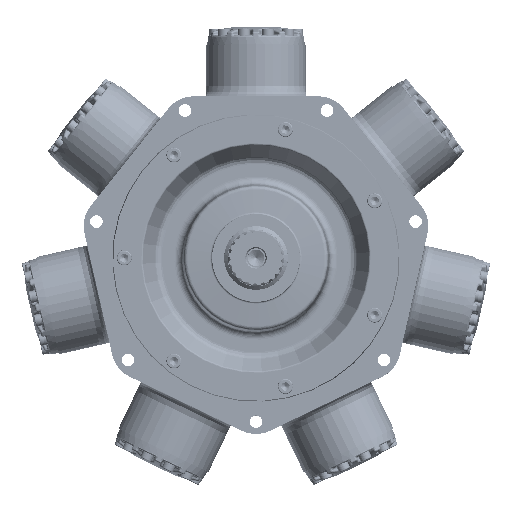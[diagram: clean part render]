
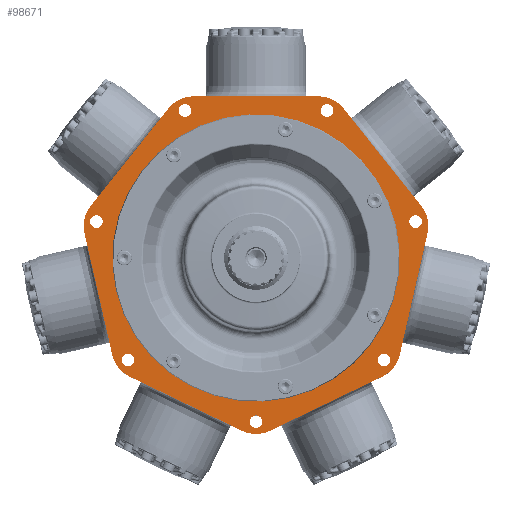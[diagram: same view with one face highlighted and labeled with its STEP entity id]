
A CAD part, top view. The second image highlights one B-rep face of the part: STEP entity #98671.
In plain terms, the highlighted planar face has unit normal (0, 0, 1).
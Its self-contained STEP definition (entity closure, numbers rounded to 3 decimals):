
#1975=FACE_BOUND('',#21169,.T.);
#1976=FACE_BOUND('',#21170,.T.);
#1977=FACE_BOUND('',#21171,.T.);
#1978=FACE_BOUND('',#21172,.T.);
#1979=FACE_BOUND('',#21173,.T.);
#1980=FACE_BOUND('',#21174,.T.);
#1981=FACE_BOUND('',#21175,.T.);
#1982=FACE_BOUND('',#21176,.T.);
#2311=PLANE('',#104939);
#5319=LINE('',#139982,#10028);
#5320=LINE('',#139986,#10029);
#5321=LINE('',#139990,#10030);
#5322=LINE('',#139994,#10031);
#5323=LINE('',#139998,#10032);
#5324=LINE('',#140002,#10033);
#5325=LINE('',#140006,#10034);
#10028=VECTOR('',#113343,10.);
#10029=VECTOR('',#113346,10.);
#10030=VECTOR('',#113349,10.);
#10031=VECTOR('',#113352,10.);
#10032=VECTOR('',#113355,10.);
#10033=VECTOR('',#113358,10.);
#10034=VECTOR('',#113361,10.);
#14933=FACE_OUTER_BOUND('',#21168,.T.);
#21168=EDGE_LOOP('',(#60533,#60534,#60535,#60536,#60537,#60538,#60539,#60540,
#60541,#60542,#60543,#60544,#60545,#60546));
#21169=EDGE_LOOP('',(#60547));
#21170=EDGE_LOOP('',(#60548));
#21171=EDGE_LOOP('',(#60549));
#21172=EDGE_LOOP('',(#60550));
#21173=EDGE_LOOP('',(#60551));
#21174=EDGE_LOOP('',(#60552));
#21175=EDGE_LOOP('',(#60553));
#21176=EDGE_LOOP('',(#60554));
#27717=CIRCLE('',#104940,50.8);
#27718=CIRCLE('',#104941,50.8);
#27719=CIRCLE('',#104942,50.8);
#27720=CIRCLE('',#104943,50.8);
#27721=CIRCLE('',#104944,50.8);
#27722=CIRCLE('',#104945,50.8);
#27723=CIRCLE('',#104946,50.8);
#27724=CIRCLE('',#104947,10.);
#27725=CIRCLE('',#104948,10.);
#27726=CIRCLE('',#104949,10.);
#27727=CIRCLE('',#104950,10.);
#27728=CIRCLE('',#104951,10.);
#27729=CIRCLE('',#104952,10.);
#27730=CIRCLE('',#104953,10.);
#27731=CIRCLE('',#104954,228.555);
#36667=VERTEX_POINT('',#139980);
#36668=VERTEX_POINT('',#139981);
#36669=VERTEX_POINT('',#139983);
#36670=VERTEX_POINT('',#139985);
#36671=VERTEX_POINT('',#139987);
#36672=VERTEX_POINT('',#139989);
#36673=VERTEX_POINT('',#139991);
#36674=VERTEX_POINT('',#139993);
#36675=VERTEX_POINT('',#139995);
#36676=VERTEX_POINT('',#139997);
#36677=VERTEX_POINT('',#139999);
#36678=VERTEX_POINT('',#140001);
#36679=VERTEX_POINT('',#140003);
#36680=VERTEX_POINT('',#140005);
#36681=VERTEX_POINT('',#140008);
#36682=VERTEX_POINT('',#140010);
#36683=VERTEX_POINT('',#140012);
#36684=VERTEX_POINT('',#140014);
#36685=VERTEX_POINT('',#140016);
#36686=VERTEX_POINT('',#140018);
#36687=VERTEX_POINT('',#140020);
#36688=VERTEX_POINT('',#140022);
#45638=EDGE_CURVE('',#36667,#36668,#5319,.T.);
#45639=EDGE_CURVE('',#36669,#36667,#27717,.T.);
#45640=EDGE_CURVE('',#36670,#36669,#5320,.T.);
#45641=EDGE_CURVE('',#36671,#36670,#27718,.T.);
#45642=EDGE_CURVE('',#36672,#36671,#5321,.T.);
#45643=EDGE_CURVE('',#36673,#36672,#27719,.T.);
#45644=EDGE_CURVE('',#36674,#36673,#5322,.T.);
#45645=EDGE_CURVE('',#36675,#36674,#27720,.T.);
#45646=EDGE_CURVE('',#36676,#36675,#5323,.T.);
#45647=EDGE_CURVE('',#36677,#36676,#27721,.T.);
#45648=EDGE_CURVE('',#36678,#36677,#5324,.T.);
#45649=EDGE_CURVE('',#36679,#36678,#27722,.T.);
#45650=EDGE_CURVE('',#36680,#36679,#5325,.T.);
#45651=EDGE_CURVE('',#36668,#36680,#27723,.T.);
#45652=EDGE_CURVE('',#36681,#36681,#27724,.T.);
#45653=EDGE_CURVE('',#36682,#36682,#27725,.T.);
#45654=EDGE_CURVE('',#36683,#36683,#27726,.T.);
#45655=EDGE_CURVE('',#36684,#36684,#27727,.T.);
#45656=EDGE_CURVE('',#36685,#36685,#27728,.T.);
#45657=EDGE_CURVE('',#36686,#36686,#27729,.T.);
#45658=EDGE_CURVE('',#36687,#36687,#27730,.T.);
#45659=EDGE_CURVE('',#36688,#36688,#27731,.T.);
#60533=ORIENTED_EDGE('',*,*,#45638,.F.);
#60534=ORIENTED_EDGE('',*,*,#45639,.F.);
#60535=ORIENTED_EDGE('',*,*,#45640,.F.);
#60536=ORIENTED_EDGE('',*,*,#45641,.F.);
#60537=ORIENTED_EDGE('',*,*,#45642,.F.);
#60538=ORIENTED_EDGE('',*,*,#45643,.F.);
#60539=ORIENTED_EDGE('',*,*,#45644,.F.);
#60540=ORIENTED_EDGE('',*,*,#45645,.F.);
#60541=ORIENTED_EDGE('',*,*,#45646,.F.);
#60542=ORIENTED_EDGE('',*,*,#45647,.F.);
#60543=ORIENTED_EDGE('',*,*,#45648,.F.);
#60544=ORIENTED_EDGE('',*,*,#45649,.F.);
#60545=ORIENTED_EDGE('',*,*,#45650,.F.);
#60546=ORIENTED_EDGE('',*,*,#45651,.F.);
#60547=ORIENTED_EDGE('',*,*,#45652,.T.);
#60548=ORIENTED_EDGE('',*,*,#45653,.T.);
#60549=ORIENTED_EDGE('',*,*,#45654,.T.);
#60550=ORIENTED_EDGE('',*,*,#45655,.T.);
#60551=ORIENTED_EDGE('',*,*,#45656,.T.);
#60552=ORIENTED_EDGE('',*,*,#45657,.T.);
#60553=ORIENTED_EDGE('',*,*,#45658,.T.);
#60554=ORIENTED_EDGE('',*,*,#45659,.F.);
#98671=ADVANCED_FACE('',(#14933,#1975,#1976,#1977,#1978,#1979,#1980,#1981,
#1982),#2311,.F.);
#104939=AXIS2_PLACEMENT_3D('',#139979,#113341,#113342);
#104940=AXIS2_PLACEMENT_3D('',#139984,#113344,#113345);
#104941=AXIS2_PLACEMENT_3D('',#139988,#113347,#113348);
#104942=AXIS2_PLACEMENT_3D('',#139992,#113350,#113351);
#104943=AXIS2_PLACEMENT_3D('',#139996,#113353,#113354);
#104944=AXIS2_PLACEMENT_3D('',#140000,#113356,#113357);
#104945=AXIS2_PLACEMENT_3D('',#140004,#113359,#113360);
#104946=AXIS2_PLACEMENT_3D('',#140007,#113362,#113363);
#104947=AXIS2_PLACEMENT_3D('',#140009,#113364,#113365);
#104948=AXIS2_PLACEMENT_3D('',#140011,#113366,#113367);
#104949=AXIS2_PLACEMENT_3D('',#140013,#113368,#113369);
#104950=AXIS2_PLACEMENT_3D('',#140015,#113370,#113371);
#104951=AXIS2_PLACEMENT_3D('',#140017,#113372,#113373);
#104952=AXIS2_PLACEMENT_3D('',#140019,#113374,#113375);
#104953=AXIS2_PLACEMENT_3D('',#140021,#113376,#113377);
#104954=AXIS2_PLACEMENT_3D('',#140023,#113378,#113379);
#113341=DIRECTION('center_axis',(0.,0.,-1.));
#113342=DIRECTION('ref_axis',(-1.,0.,0.));
#113343=DIRECTION('',(0.623,0.782,0.));
#113344=DIRECTION('center_axis',(0.,0.,-1.));
#113345=DIRECTION('ref_axis',(-0.975,-0.223,0.));
#113346=DIRECTION('',(-0.223,0.975,0.));
#113347=DIRECTION('center_axis',(0.,0.,-1.));
#113348=DIRECTION('ref_axis',(-0.434,-0.901,0.));
#113349=DIRECTION('',(-0.901,0.434,0.));
#113350=DIRECTION('center_axis',(0.,0.,-1.));
#113351=DIRECTION('ref_axis',(0.434,-0.901,0.));
#113352=DIRECTION('',(-0.901,-0.434,0.));
#113353=DIRECTION('center_axis',(0.,0.,-1.));
#113354=DIRECTION('ref_axis',(0.975,-0.223,0.));
#113355=DIRECTION('',(-0.223,-0.975,0.));
#113356=DIRECTION('center_axis',(0.,0.,-1.));
#113357=DIRECTION('ref_axis',(0.782,0.623,0.));
#113358=DIRECTION('',(0.623,-0.782,0.));
#113359=DIRECTION('center_axis',(0.,0.,-1.));
#113360=DIRECTION('ref_axis',(0.,1.,0.));
#113361=DIRECTION('',(1.,0.,0.));
#113362=DIRECTION('center_axis',(0.,0.,-1.));
#113363=DIRECTION('ref_axis',(-0.782,0.623,0.));
#113364=DIRECTION('center_axis',(0.,0.,-1.));
#113365=DIRECTION('ref_axis',(1.,0.,0.));
#113366=DIRECTION('center_axis',(0.,0.,-1.));
#113367=DIRECTION('ref_axis',(1.,0.,0.));
#113368=DIRECTION('center_axis',(0.,0.,-1.));
#113369=DIRECTION('ref_axis',(1.,0.,0.));
#113370=DIRECTION('center_axis',(0.,0.,-1.));
#113371=DIRECTION('ref_axis',(1.,0.,0.));
#113372=DIRECTION('center_axis',(0.,0.,-1.));
#113373=DIRECTION('ref_axis',(1.,0.,0.));
#113374=DIRECTION('center_axis',(0.,0.,-1.));
#113375=DIRECTION('ref_axis',(1.,0.,0.));
#113376=DIRECTION('center_axis',(0.,0.,-1.));
#113377=DIRECTION('ref_axis',(1.,0.,0.));
#113378=DIRECTION('center_axis',(0.,0.,
1.));
#113379=DIRECTION('ref_axis',(0.223,-0.975,0.));
#139979=CARTESIAN_POINT('Origin',(0.,439.494,-6.59));
#139980=CARTESIAN_POINT('',(-263.033,82.644,-6.59));
#139981=CARTESIAN_POINT('',(-139.102,238.048,-6.59));
#139982=CARTESIAN_POINT('',(-62.966,333.52,-6.59));
#139983=CARTESIAN_POINT('',(-272.842,39.666,-6.59));
#139984=CARTESIAN_POINT('Origin',(-223.316,50.97,-6.59));
#139985=CARTESIAN_POINT('',(-228.612,-154.12,-6.59));
#139986=CARTESIAN_POINT('',(-309.457,200.086,-6.59));
#139987=CARTESIAN_POINT('',(-201.127,-188.585,-6.59));
#139988=CARTESIAN_POINT('Origin',(-179.086,-142.816,-6.59));
#139989=CARTESIAN_POINT('',(-22.041,-274.828,-6.59));
#139990=CARTESIAN_POINT('',(-242.258,-168.777,-6.59));
#139991=CARTESIAN_POINT('',(22.041,-274.828,-6.59));
#139992=CARTESIAN_POINT('Origin',(0.,-229.059,
-6.59));
#139993=CARTESIAN_POINT('',(201.127,-188.585,-6.59));
#139994=CARTESIAN_POINT('',(152.715,-211.899,-6.59));
#139995=CARTESIAN_POINT('',(228.612,-154.12,-6.59));
#139996=CARTESIAN_POINT('Origin',(179.086,-142.816,-6.59));
#139997=CARTESIAN_POINT('',(272.842,39.666,-6.59));
#139998=CARTESIAN_POINT('',(287.342,103.193,-6.59));
#139999=CARTESIAN_POINT('',(263.033,82.644,-6.59));
#140000=CARTESIAN_POINT('Origin',(223.316,50.97,-6.59));
#140001=CARTESIAN_POINT('',(139.102,238.048,-6.59));
#140002=CARTESIAN_POINT('',(124.931,255.818,-6.59));
#140003=CARTESIAN_POINT('',(99.385,257.175,-6.59));
#140004=CARTESIAN_POINT('Origin',(99.385,206.375,-6.59));
#140005=CARTESIAN_POINT('',(-99.385,257.175,-6.59));
#140006=CARTESIAN_POINT('',(49.692,257.175,-6.59));
#140007=CARTESIAN_POINT('Origin',(-99.385,206.375,-6.59));
#140008=CARTESIAN_POINT('',(-10.,-260.35,-6.59));
#140009=CARTESIAN_POINT('Origin',(0.,-260.35,-6.59));
#140010=CARTESIAN_POINT('',(243.822,57.933,-6.59));
#140011=CARTESIAN_POINT('Origin',(253.822,57.933,-6.59));
#140012=CARTESIAN_POINT('',(-263.822,57.933,-6.59));
#140013=CARTESIAN_POINT('Origin',(-253.822,57.933,-6.59));
#140014=CARTESIAN_POINT('',(193.55,-162.326,-6.59));
#140015=CARTESIAN_POINT('Origin',(203.55,-162.326,-6.59));
#140016=CARTESIAN_POINT('',(102.962,234.567,-6.59));
#140017=CARTESIAN_POINT('Origin',(112.962,234.567,-6.59));
#140018=CARTESIAN_POINT('',(-122.962,234.567,-6.59));
#140019=CARTESIAN_POINT('Origin',(-112.962,234.567,-6.59));
#140020=CARTESIAN_POINT('',(-213.55,-162.326,-6.59));
#140021=CARTESIAN_POINT('Origin',(-203.55,-162.326,-6.59));
#140022=CARTESIAN_POINT('',(222.825,50.858,-6.59));
#140023=CARTESIAN_POINT('Origin',(0.,0.,
-6.59));
